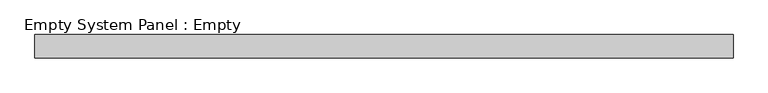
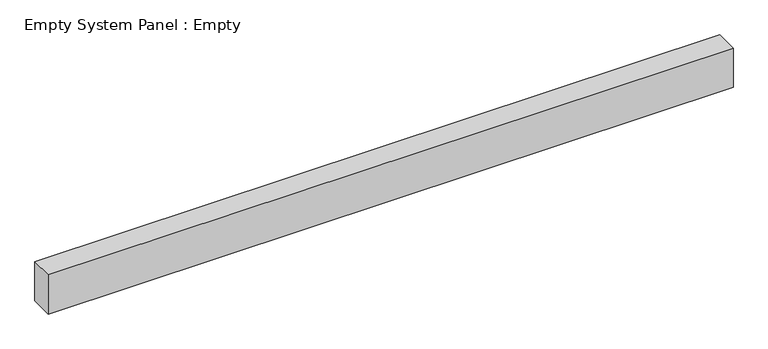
"""IFC4 building model written with IfcOpenShell, lengths in millimetres: plate geometry, Empty System Panel : Empty."""

from ifc_helpers import new_model, si_unit, origin, origin_with_axes, place, context, project, spatial, polyline, outline, extrude, source, transform, mapped, element, save


def empty_system_panel_empty_0b604c90(model_context):
    return source(origin(), model_context, "Body", "SweptSolid", [
        extrude(outline(polyline([(1500.0, -50.0), (-1500.0, -50.0), (-1500.0, 50.0), (1500.0, 50.0), (1500.0, -50.0)])), origin_with_axes(), (0.0, 0.0, 1.0), 181.5),
    ])


if __name__ == "__main__":
    model = new_model("IFC4")
    model_context = context("Model", 3, world=origin())
    ifc_project = project(units=[si_unit("LENGTHUNIT", "METRE", prefix="MILLI")], contexts=[model_context])
    site = spatial("IfcSite", under=ifc_project)
    building = spatial("IfcBuilding", under=site)
    placement = place(None, origin())
    empty_system_panel_empty_shape = empty_system_panel_empty_0b604c90(model_context)
    element("IfcPlate", 1, ObjectType="Empty System Panel : Empty", at=placement, inside=building, context=model_context, shape_type="MappedRepresentation", body=[
        mapped(empty_system_panel_empty_shape, transform((0.0, 0.0, 0.0), x_axis=(1.0, 0.0, 0.0), y_axis=(0.0, 1.0, 0.0), z_axis=(0.0, 0.0, 1.0))),
    ])
    save(model, "model.ifc")
